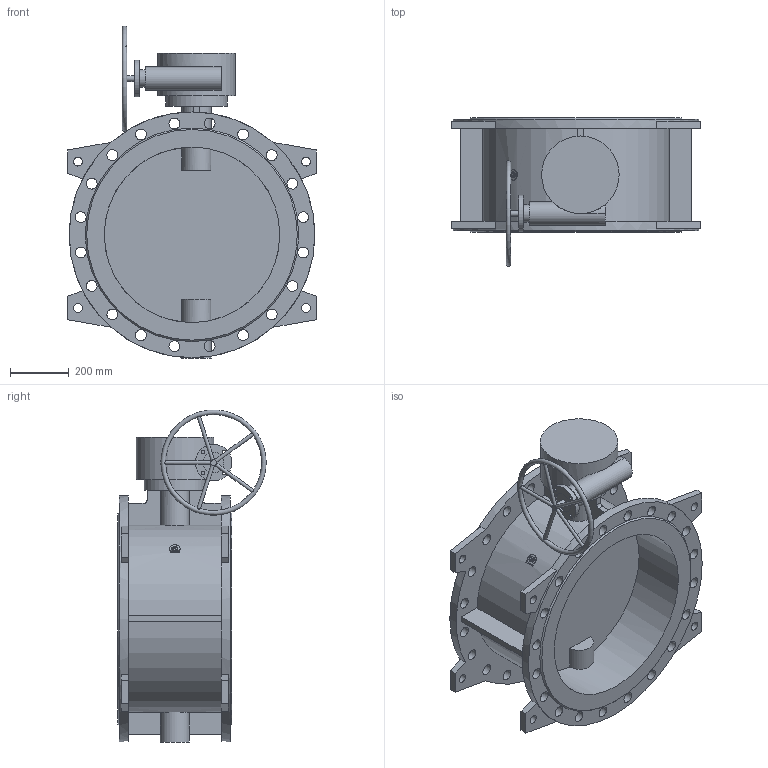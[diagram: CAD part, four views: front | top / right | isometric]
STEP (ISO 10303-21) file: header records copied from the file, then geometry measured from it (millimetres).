
FILE_DESCRIPTION(('STEP AP203'), '1');
FILE_NAME('Çàòâîð 023F.Z DN600 PN16_ìàõ', '', ('UNSPECIFIED'), ('UNSPECIFIED'), 'ASCON STEP Converter 1.6', 'ASCON Math Kernel', '');
FILE_SCHEMA(('CONFIG_CONTROL_DESIGN'));
Length unit declared in the file: millimetre
Bounding box: 850 x 507.49 x 1134.69 mm (x, y, z)
Volume: 61058915 mm3; surface area: 3890594.2 mm2
Topology: 1 solids, 1 shells, 189 faces, 509 edges, 340 vertices
Faces by surface type: cylinder 96, plane 90, cone 2, torus 1
Full cylindrical faces by diameter (mm): 12 x9, 18.5 x4, 20 x2, 23 x4, 30 x8, 37 x40, 60 x1, 70 x1, 80 x1, 100 x1, 125 x1, 210 x1, 265 x1, 600 x2, 840 x2
Entity records: 10424 total; most frequent: CARTESIAN_POINT 4178, DIRECTION 943, ORIENTED_EDGE 848, EDGE_CURVE 424, EDGE_LOOP 400, AXIS2_PLACEMENT_3D 381, VERTEX_POINT 338, FACE_BOUND 257
